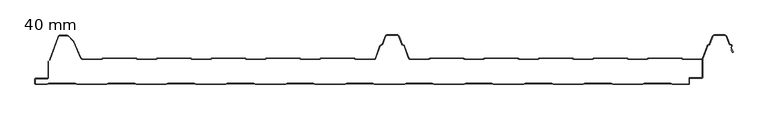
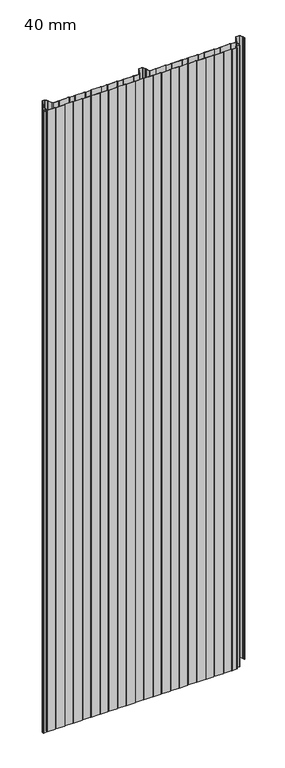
"""IFC4 building model written with IfcOpenShell, lengths in millimetres: plate geometry, HIANSA PANEL - H20.F01.004-PANELES DE CUBIERTA SIN TAPAJUNTA - EASY CUB 3GR - Panel de Muro Cortina : 40 mm."""

from ifc_helpers import new_model, si_unit, point, frame_2d, origin, origin_with_axes, place, context, project, spatial, polyline, circle_curve, trimmed, segment, composite_curve, outline, extrude, source, transform, mapped, element, save


def plate_40_mm_f33d5fd4(model_context):
    return source(origin(), model_context, "Body", "SweptSolid", [
        extrude(outline(polyline([(513.0200154, 36.9139578), (513.5200154, 38.0369762), (513.5200154, 16.25), (513.0200154, 15.535926), (513.0200154, 36.9139578)])), origin_with_axes(), (0.0, 0.0, 1.0), 3390.8509027),
        extrude(outline(polyline([(-486.0046627, 15.4267187), (-486.4799843, 16.25), (-486.4799843, 34.6399643), (-486.0046627, 35.4632456), (-486.0046627, 15.4267187)])), origin_with_axes(), (0.0, 0.0, 1.0), 3390.8509027),
        extrude(outline(composite_curve([segment(trimmed(circle_curve(frame_2d((-486.9813922, 9.7640482)), 0.998858), [point((-485.9825353, 9.7655207))], [point((-486.9813922, 8.7651902))], False, "CARTESIAN"), True, "CONTINUOUS"), segment(polyline([(-486.9813922, 8.7651902), (-505.4768583, 8.7651905)]), True, "CONTINUOUS"), segment(trimmed(circle_curve(frame_2d((-505.4798404, 8.2649415)), 0.5002578), [point((-505.4768583, 8.7651905))], [point((-505.9800982, 8.2649415))], True, "CARTESIAN"), True, "CONTINUOUS"), segment(polyline([(-505.9800982, 8.2649415), (-505.9800982, 1.0000206)]), True, "CONTINUOUS"), segment(trimmed(circle_curve(frame_2d((-505.4800365, 1.0000206)), 0.5000618), [point((-505.9800982, 1.0000206))], [point((-505.4800365, 0.4999588))], True, "CARTESIAN"), True, "CONTINUOUS"), segment(polyline([(-505.4800365, 0.4999588), (-488.3212473, 0.4999588), (-485.3211238, 1.5), (-445.1588462, 1.5), (-442.1588462, 0.5), (-397.3211238, 0.5), (-394.3211238, 1.5), (-354.1588462, 1.5), (-351.1588462, 0.5), (-306.3211238, 0.5), (-303.3211238, 1.5), (-263.1588462, 1.5), (-260.1588462, 0.5), (-215.3211238, 0.5), (-212.3211238, 1.5), (-172.1588462, 1.5), (-169.1588462, 0.5), (-124.3211238, 0.5), (-121.3211238, 1.5), (-81.1588462, 1.5), (-78.1588462, 0.5), (-33.3211238, 0.5), (-30.3211238, 1.5), (9.8411538, 1.5), (12.8411538, 0.5), (57.6788762, 0.5), (60.6788762, 1.5), (100.8411538, 1.5), (103.8411538, 0.5), (148.6788762, 0.5), (151.6788762, 1.5), (191.8411538, 1.5), (194.8411538, 0.5), (239.6788762, 0.5), (242.6788762, 1.5), (282.8411538, 1.5), (285.8411538, 0.5), (330.6788762, 0.5), (333.6788762, 1.5), (373.8411538, 1.5), (376.8411538, 0.5), (421.6788762, 0.5), (424.6788762, 1.5), (464.8411538, 1.5), (467.8411538, 0.5), (492.5200154, 0.5)]), True, "CONTINUOUS"), segment(trimmed(circle_curve(frame_2d((492.5200154, 1.0)), 0.5), [point((492.5200154, 0.5))], [point((493.0200154, 1.0))], True, "CARTESIAN"), True, "CONTINUOUS"), segment(polyline([(493.0200154, 1.0), (493.0200154, 9.1271447)]), True, "CONTINUOUS"), segment(trimmed(circle_curve(frame_2d((494.0200154, 9.1271447)), 1.0), [point((493.0200154, 9.1271447))], [point((494.0200154, 10.1271447))], False, "CARTESIAN"), True, "CONTINUOUS"), segment(polyline([(494.0200154, 10.1271447), (512.5169602, 10.1271447)]), True, "CONTINUOUS"), segment(trimmed(circle_curve(frame_2d((512.5200154, 10.6271354)), 0.5), [point((512.5169602, 10.1271447))], [point((513.0200154, 10.6271354))], True, "CARTESIAN"), True, "CONTINUOUS"), segment(polyline([(513.0200154, 10.6271354), (513.0200154, 15.535926), (513.5200154, 16.25), (513.5200154, 10.6271354)]), True, "CONTINUOUS"), segment(trimmed(circle_curve(frame_2d((512.5200154, 10.6271354)), 1.0), [point((513.5200154, 10.6271354))], [point((512.5200154, 9.6271354))], False, "CARTESIAN"), True, "CONTINUOUS"), segment(polyline([(512.5200154, 9.6271354), (494.0230705, 9.6271354)]), True, "CONTINUOUS"), segment(trimmed(circle_curve(frame_2d((494.0200154, 9.1271447)), 0.5), [point((494.0230705, 9.6271354))], [point((493.5200154, 9.1271447))], True, "CARTESIAN"), True, "CONTINUOUS"), segment(polyline([(493.5200154, 9.1271447), (493.5200154, 1.0)]), True, "CONTINUOUS"), segment(trimmed(circle_curve(frame_2d((492.5200154, 1.0)), 1.0), [point((493.5200154, 1.0))], [point((492.5200154, 0.0))], False, "CARTESIAN"), True, "CONTINUOUS"), segment(polyline([(492.5200154, 0.0), (467.760015, 0.0), (464.760015, 1.0), (424.760015, 1.0), (421.760015, 0.0), (376.760015, 0.0), (373.760015, 1.0), (333.760015, 1.0), (330.760015, 0.0), (285.760015, 0.0), (282.760015, 1.0), (242.760015, 1.0), (239.760015, 0.0), (194.760015, 0.0), (191.760015, 1.0), (151.760015, 1.0), (148.760015, 0.0), (103.760015, 0.0), (100.760015, 1.0), (60.760015, 1.0), (57.760015, 0.0), (12.760015, 0.0), (9.760015, 1.0), (-30.239985, 1.0), (-33.239985, 0.0), (-78.239985, 0.0), (-81.239985, 1.0), (-121.239985, 1.0), (-124.239985, 0.0), (-169.239985, 0.0), (-172.239985, 1.0), (-212.239985, 1.0), (-215.239985, 0.0), (-260.239985, 0.0), (-263.239985, 1.0), (-303.239985, 1.0), (-306.239985, 0.0), (-351.239985, 0.0), (-354.239985, 1.0), (-394.239985, 1.0), (-397.239985, 0.0), (-442.239985, 0.0), (-445.239985, 1.0), (-485.239985, 1.0), (-488.239985, 0.0), (-505.479985, 0.0)]), True, "CONTINUOUS"), segment(trimmed(circle_curve(frame_2d((-505.479985, 1.0)), 1.0), [point((-505.479985, 0.0))], [point((-506.479985, 1.0))], False, "CARTESIAN"), True, "CONTINUOUS"), segment(polyline([(-506.479985, 1.0), (-506.479985, 8.262651)]), True, "CONTINUOUS"), segment(trimmed(circle_curve(frame_2d((-505.479985, 8.262651)), 1.0), [point((-506.479985, 8.262651))], [point((-505.479985, 9.262651))], False, "CARTESIAN"), True, "CONTINUOUS"), segment(polyline([(-505.479985, 9.262651), (-486.9830395, 9.262651)]), True, "CONTINUOUS"), segment(trimmed(circle_curve(frame_2d((-486.9799843, 9.7626416)), 0.5), [point((-486.9830395, 9.262651))], [point((-486.4799843, 9.7626416))], True, "CARTESIAN"), True, "CONTINUOUS"), segment(polyline([(-486.4799843, 9.7626416), (-486.4799843, 16.25), (-485.9825353, 15.388393), (-485.9825353, 9.7655207)]), True, "CONTINUOUS")], self_intersect=False)), origin_with_axes(), (0.0, 0.0, 1.0), 3390.8509027),
        extrude(outline(composite_curve([segment(polyline([(-484.137089, 36.794297), (-470.9862026, 72.9260604)]), True, "CONTINUOUS"), segment(trimmed(circle_curve(frame_2d((-468.1671247, 71.9)), 3.0), [point((-470.9862026, 72.9260604))], [point((-468.1671247, 74.9))], False, "CARTESIAN"), True, "CONTINUOUS"), segment(polyline([(-468.1671247, 74.9), (-458.1823567, 74.9)]), True, "CONTINUOUS"), segment(trimmed(circle_curve(frame_2d((-458.1823567, 69.9)), 5.0), [point((-458.1823567, 74.9))], [point((-454.6468228, 73.4355339))], False, "CARTESIAN"), True, "CONTINUOUS"), segment(polyline([(-454.6468228, 73.4355339), (-447.9600419, 66.7487529)]), True, "CONTINUOUS"), segment(trimmed(circle_curve(frame_2d((-451.4955758, 63.213219)), 5.0), [point((-447.9600419, 66.7487529))], [point((-446.9079188, 65.2015359))], False, "CARTESIAN"), True, "CONTINUOUS"), segment(polyline([(-446.9079188, 65.2015359), (-436.1184882, 40.3070099)]), True, "CONTINUOUS"), segment(trimmed(circle_curve(frame_2d((-433.365894, 41.5)), 3.0), [point((-436.1184882, 40.3070099))], [point((-433.365894, 38.5))], True, "CARTESIAN"), True, "CONTINUOUS"), segment(polyline([(-433.365894, 38.5), (-405.5009812, 38.5)]), True, "CONTINUOUS"), segment(trimmed(circle_curve(frame_2d((-405.5009812, 40.5)), 2.0), [point((-405.5009812, 38.5))], [point((-404.2709893, 38.9229394))], True, "CARTESIAN"), True, "CONTINUOUS"), segment(polyline([(-404.2709893, 38.9229394), (-403.6196414, 39.5404749)]), True, "CONTINUOUS"), segment(trimmed(circle_curve(frame_2d((-402.3441269, 38.0)), 2.0), [point((-403.6196414, 39.5404749))], [point((-402.3441269, 40.0))], False, "CARTESIAN"), True, "CONTINUOUS"), segment(polyline([(-402.3441269, 40.0), (-352.3428935, 40.0)]), True, "CONTINUOUS"), segment(trimmed(circle_curve(frame_2d((-352.3428935, 38.0)), 2.0), [point((-352.3428935, 40.0))], [point((-351.067379, 39.5404749))], False, "CARTESIAN"), True, "CONTINUOUS"), segment(polyline([(-351.067379, 39.5404749), (-350.4160311, 38.9229394)]), True, "CONTINUOUS"), segment(trimmed(circle_curve(frame_2d((-349.1860393, 40.5)), 2.0), [point((-350.4160311, 38.9229394))], [point((-349.1860393, 38.5))], True, "CARTESIAN"), True, "CONTINUOUS"), segment(polyline([(-349.1860393, 38.5), (-322.1676478, 38.5)]), True, "CONTINUOUS"), segment(trimmed(circle_curve(frame_2d((-322.1676478, 40.5)), 2.0), [point((-322.1676478, 38.5))], [point((-320.937656, 38.9229394))], True, "CARTESIAN"), True, "CONTINUOUS"), segment(polyline([(-320.937656, 38.9229394), (-320.286308, 39.5404749)]), True, "CONTINUOUS"), segment(trimmed(circle_curve(frame_2d((-319.0107936, 38.0)), 2.0), [point((-320.286308, 39.5404749))], [point((-319.0107936, 40.0))], False, "CARTESIAN"), True, "CONTINUOUS"), segment(polyline([(-319.0107936, 40.0), (-269.0095602, 40.0)]), True, "CONTINUOUS"), segment(trimmed(circle_curve(frame_2d((-269.0095602, 38.0)), 2.0), [point((-269.0095602, 40.0))], [point((-267.7340457, 39.5404749))], False, "CARTESIAN"), True, "CONTINUOUS"), segment(polyline([(-267.7340457, 39.5404749), (-267.0826978, 38.9229394)]), True, "CONTINUOUS"), segment(trimmed(circle_curve(frame_2d((-265.8527059, 40.5)), 2.0), [point((-267.0826978, 38.9229394))], [point((-265.8527059, 38.5))], True, "CARTESIAN"), True, "CONTINUOUS"), segment(polyline([(-265.8527059, 38.5), (-238.8343145, 38.5)]), True, "CONTINUOUS"), segment(trimmed(circle_curve(frame_2d((-238.8343145, 40.5)), 2.0), [point((-238.8343145, 38.5))], [point((-237.6043226, 38.9229394))], True, "CARTESIAN"), True, "CONTINUOUS"), segment(polyline([(-237.6043226, 38.9229394), (-236.9529747, 39.5404749)]), True, "CONTINUOUS"), segment(trimmed(circle_curve(frame_2d((-235.6774602, 38.0)), 2.0), [point((-236.9529747, 39.5404749))], [point((-235.6774602, 40.0))], False, "CARTESIAN"), True, "CONTINUOUS"), segment(polyline([(-235.6774602, 40.0), (-185.6762268, 40.0)]), True, "CONTINUOUS"), segment(trimmed(circle_curve(frame_2d((-185.6762268, 38.0)), 2.0), [point((-185.6762268, 40.0))], [point((-184.4007124, 39.5404749))], False, "CARTESIAN"), True, "CONTINUOUS"), segment(polyline([(-184.4007124, 39.5404749), (-183.7493645, 38.9229394)]), True, "CONTINUOUS"), segment(trimmed(circle_curve(frame_2d((-182.5193726, 40.5)), 2.0), [point((-183.7493645, 38.9229394))], [point((-182.5193726, 38.5))], True, "CARTESIAN"), True, "CONTINUOUS"), segment(polyline([(-182.5193726, 38.5), (-155.5009812, 38.5)]), True, "CONTINUOUS"), segment(trimmed(circle_curve(frame_2d((-155.5009812, 40.5)), 2.0), [point((-155.5009812, 38.5))], [point((-154.2709893, 38.9229394))], True, "CARTESIAN"), True, "CONTINUOUS"), segment(polyline([(-154.2709893, 38.9229394), (-153.6196414, 39.5404749)]), True, "CONTINUOUS"), segment(trimmed(circle_curve(frame_2d((-152.3441269, 38.0)), 2.0), [point((-153.6196414, 39.5404749))], [point((-152.3441269, 40.0))], False, "CARTESIAN"), True, "CONTINUOUS"), segment(polyline([(-152.3441269, 40.0), (-102.3428935, 40.0)]), True, "CONTINUOUS"), segment(trimmed(circle_curve(frame_2d((-102.3428935, 38.0)), 2.0), [point((-102.3428935, 40.0))], [point((-101.067379, 39.5404749))], False, "CARTESIAN"), True, "CONTINUOUS"), segment(polyline([(-101.067379, 39.5404749), (-100.4160311, 38.9229394)]), True, "CONTINUOUS"), segment(trimmed(circle_curve(frame_2d((-99.1860393, 40.5)), 2.0), [point((-100.4160311, 38.9229394))], [point((-99.1860393, 38.5))], True, "CARTESIAN"), True, "CONTINUOUS"), segment(polyline([(-99.1860393, 38.5), (-72.1676478, 38.5)]), True, "CONTINUOUS"), segment(trimmed(circle_curve(frame_2d((-72.1676478, 40.5)), 2.0), [point((-72.1676478, 38.5))], [point((-70.937656, 38.9229394))], True, "CARTESIAN"), True, "CONTINUOUS"), segment(polyline([(-70.937656, 38.9229394), (-70.286308, 39.5404749)]), True, "CONTINUOUS"), segment(trimmed(circle_curve(frame_2d((-69.0107936, 38.0)), 2.0), [point((-70.286308, 39.5404749))], [point((-69.0107936, 40.0))], False, "CARTESIAN"), True, "CONTINUOUS"), segment(polyline([(-69.0107936, 40.0), (-19.0095602, 40.0)]), True, "CONTINUOUS"), segment(trimmed(circle_curve(frame_2d((-19.0095602, 38.0)), 2.0), [point((-19.0095602, 40.0))], [point((-17.7340457, 39.5404749))], False, "CARTESIAN"), True, "CONTINUOUS"), segment(polyline([(-17.7340457, 39.5404749), (-17.0826978, 38.9229394)]), True, "CONTINUOUS"), segment(trimmed(circle_curve(frame_2d((-15.8527059, 40.5)), 2.0), [point((-17.0826978, 38.9229394))], [point((-15.8527059, 38.5))], True, "CARTESIAN"), True, "CONTINUOUS"), segment(polyline([(-15.8527059, 38.5), (11.1656852, 38.5)]), True, "CONTINUOUS"), segment(trimmed(circle_curve(frame_2d((11.1656852, 41.5)), 3.0), [point((11.1656852, 38.5))], [point((13.984763, 40.4739395))], True, "CARTESIAN"), True, "CONTINUOUS"), segment(polyline([(13.984763, 40.4739395), (20.7029918, 58.9321192)]), True, "CONTINUOUS"), segment(trimmed(circle_curve(frame_2d((22.2064999, 58.3848869)), 1.6), [point((20.7029918, 58.9321192))], [point((21.6592677, 59.8883951))], False, "CARTESIAN"), True, "CONTINUOUS"), segment(polyline([(21.6592677, 59.8883951), (23.5053315, 60.5603074)]), True, "CONTINUOUS"), segment(trimmed(circle_curve(frame_2d((23.1633114, 61.5)), 1.0), [point((23.5053315, 60.5603074))], [point((24.103004, 61.1579799))], True, "CARTESIAN"), True, "CONTINUOUS"), segment(polyline([(24.103004, 61.1579799), (28.4609262, 73.1312725)]), True, "CONTINUOUS"), segment(trimmed(circle_curve(frame_2d((31.8438196, 71.9)), 3.6), [point((28.4609262, 73.1312725))], [point((31.8438196, 75.5))], False, "CARTESIAN"), True, "CONTINUOUS"), segment(polyline([(31.8438196, 75.5), (46.8024933, 75.5)]), True, "CONTINUOUS"), segment(trimmed(circle_curve(frame_2d((46.8024933, 71.9)), 3.6), [point((46.8024933, 75.5))], [point((50.1853868, 73.1312725))], False, "CARTESIAN"), True, "CONTINUOUS"), segment(polyline([(50.1853868, 73.1312725), (54.5433089, 61.1579799)]), True, "CONTINUOUS"), segment(trimmed(circle_curve(frame_2d((55.4830015, 61.5)), 1.0), [point((54.5433089, 61.1579799))], [point((55.1409814, 60.5603074))], True, "CARTESIAN"), True, "CONTINUOUS"), segment(polyline([(55.1409814, 60.5603074), (56.9870452, 59.8883951)]), True, "CONTINUOUS"), segment(trimmed(circle_curve(frame_2d((56.439813, 58.3848869)), 1.6), [point((56.9870452, 59.8883951))], [point((57.9433212, 58.9321192))], False, "CARTESIAN"), True, "CONTINUOUS"), segment(polyline([(57.9433212, 58.9321192), (64.6615499, 40.4739395)]), True, "CONTINUOUS"), segment(trimmed(circle_curve(frame_2d((67.4806278, 41.5)), 3.0), [point((64.6615499, 40.4739395))], [point((67.4806278, 38.5))], True, "CARTESIAN"), True, "CONTINUOUS"), segment(polyline([(67.4806278, 38.5), (94.4990188, 38.5)]), True, "CONTINUOUS"), segment(trimmed(circle_curve(frame_2d((94.4990188, 40.5)), 2.0), [point((94.4990188, 38.5))], [point((95.7290107, 38.9229394))], True, "CARTESIAN"), True, "CONTINUOUS"), segment(polyline([(95.7290107, 38.9229394), (96.3803586, 39.5404749)]), True, "CONTINUOUS"), segment(trimmed(circle_curve(frame_2d((97.6558731, 38.0)), 2.0), [point((96.3803586, 39.5404749))], [point((97.6558731, 40.0))], False, "CARTESIAN"), True, "CONTINUOUS"), segment(polyline([(97.6558731, 40.0), (147.6571065, 40.0)]), True, "CONTINUOUS"), segment(trimmed(circle_curve(frame_2d((147.6571065, 38.0)), 2.0), [point((147.6571065, 40.0))], [point((148.932621, 39.5404749))], False, "CARTESIAN"), True, "CONTINUOUS"), segment(polyline([(148.932621, 39.5404749), (149.5839689, 38.9229394)]), True, "CONTINUOUS"), segment(trimmed(circle_curve(frame_2d((150.8139607, 40.5)), 2.0), [point((149.5839689, 38.9229394))], [point((150.8139607, 38.5))], True, "CARTESIAN"), True, "CONTINUOUS"), segment(polyline([(150.8139607, 38.5), (177.8323522, 38.5)]), True, "CONTINUOUS"), segment(trimmed(circle_curve(frame_2d((177.8323522, 40.5)), 2.0), [point((177.8323522, 38.5))], [point((179.062344, 38.9229394))], True, "CARTESIAN"), True, "CONTINUOUS"), segment(polyline([(179.062344, 38.9229394), (179.713692, 39.5404749)]), True, "CONTINUOUS"), segment(trimmed(circle_curve(frame_2d((180.9892064, 38.0)), 2.0), [point((179.713692, 39.5404749))], [point((180.9892064, 40.0))], False, "CARTESIAN"), True, "CONTINUOUS"), segment(polyline([(180.9892064, 40.0), (230.9904398, 40.0)]), True, "CONTINUOUS"), segment(trimmed(circle_curve(frame_2d((230.9904398, 38.0)), 2.0), [point((230.9904398, 40.0))], [point((232.2659543, 39.5404749))], False, "CARTESIAN"), True, "CONTINUOUS"), segment(polyline([(232.2659543, 39.5404749), (232.9173022, 38.9229394)]), True, "CONTINUOUS"), segment(trimmed(circle_curve(frame_2d((234.1472941, 40.5)), 2.0), [point((232.9173022, 38.9229394))], [point((234.1472941, 38.5))], True, "CARTESIAN"), True, "CONTINUOUS"), segment(polyline([(234.1472941, 38.5), (261.1656855, 38.5)]), True, "CONTINUOUS"), segment(trimmed(circle_curve(frame_2d((261.1656855, 40.5)), 2.0), [point((261.1656855, 38.5))], [point((262.3956774, 38.9229394))], True, "CARTESIAN"), True, "CONTINUOUS"), segment(polyline([(262.3956774, 38.9229394), (263.0470253, 39.5404749)]), True, "CONTINUOUS"), segment(trimmed(circle_curve(frame_2d((264.3225398, 38.0)), 2.0), [point((263.0470253, 39.5404749))], [point((264.3225398, 40.0))], False, "CARTESIAN"), True, "CONTINUOUS"), segment(polyline([(264.3225398, 40.0), (314.3237732, 40.0)]), True, "CONTINUOUS"), segment(trimmed(circle_curve(frame_2d((314.3237732, 38.0)), 2.0), [point((314.3237732, 40.0))], [point((315.5992876, 39.5404749))], False, "CARTESIAN"), True, "CONTINUOUS"), segment(polyline([(315.5992876, 39.5404749), (316.2506355, 38.9229394)]), True, "CONTINUOUS"), segment(trimmed(circle_curve(frame_2d((317.4806274, 40.5)), 2.0), [point((316.2506355, 38.9229394))], [point((317.4806274, 38.5))], True, "CARTESIAN"), True, "CONTINUOUS"), segment(polyline([(317.4806274, 38.5), (344.4990188, 38.5)]), True, "CONTINUOUS"), segment(trimmed(circle_curve(frame_2d((344.4990188, 40.5)), 2.0), [point((344.4990188, 38.5))], [point((345.7290107, 38.9229394))], True, "CARTESIAN"), True, "CONTINUOUS"), segment(polyline([(345.7290107, 38.9229394), (346.3803586, 39.5404749)]), True, "CONTINUOUS"), segment(trimmed(circle_curve(frame_2d((347.6558731, 38.0)), 2.0), [point((346.3803586, 39.5404749))], [point((347.6558731, 40.0))], False, "CARTESIAN"), True, "CONTINUOUS"), segment(polyline([(347.6558731, 40.0), (397.6571065, 40.0)]), True, "CONTINUOUS"), segment(trimmed(circle_curve(frame_2d((397.6571065, 38.0)), 2.0), [point((397.6571065, 40.0))], [point((398.932621, 39.5404749))], False, "CARTESIAN"), True, "CONTINUOUS"), segment(polyline([(398.932621, 39.5404749), (399.5839689, 38.9229394)]), True, "CONTINUOUS"), segment(trimmed(circle_curve(frame_2d((400.8139607, 40.5)), 2.0), [point((399.5839689, 38.9229394))], [point((400.8139607, 38.5))], True, "CARTESIAN"), True, "CONTINUOUS"), segment(polyline([(400.8139607, 38.5), (427.8323522, 38.5)]), True, "CONTINUOUS"), segment(trimmed(circle_curve(frame_2d((427.8323522, 40.5)), 2.0), [point((427.8323522, 38.5))], [point((429.062344, 38.9229394))], True, "CARTESIAN"), True, "CONTINUOUS"), segment(polyline([(429.062344, 38.9229394), (429.713692, 39.5404749)]), True, "CONTINUOUS"), segment(trimmed(circle_curve(frame_2d((430.9892064, 38.0)), 2.0), [point((429.713692, 39.5404749))], [point((430.9892064, 40.0))], False, "CARTESIAN"), True, "CONTINUOUS"), segment(polyline([(430.9892064, 40.0), (480.9904398, 40.0)]), True, "CONTINUOUS"), segment(trimmed(circle_curve(frame_2d((480.9904398, 38.0)), 2.0), [point((480.9904398, 40.0))], [point((482.2659543, 39.5404749))], False, "CARTESIAN"), True, "CONTINUOUS"), segment(polyline([(482.2659543, 39.5404749), (482.9173022, 38.9229394)]), True, "CONTINUOUS"), segment(trimmed(circle_curve(frame_2d((484.1472941, 40.5)), 2.0), [point((482.9173022, 38.9229394))], [point((484.1472941, 38.5))], True, "CARTESIAN"), True, "CONTINUOUS"), segment(polyline([(484.1472941, 38.5), (511.1656852, 38.5)]), True, "CONTINUOUS"), segment(trimmed(circle_curve(frame_2d((511.1656852, 41.5)), 3.0), [point((511.1656852, 38.5))], [point((513.984763, 40.4739395))], True, "CARTESIAN"), True, "CONTINUOUS"), segment(polyline([(513.984763, 40.4739395), (520.7029918, 58.9321192)]), True, "CONTINUOUS"), segment(trimmed(circle_curve(frame_2d((522.2064999, 58.3848869)), 1.6), [point((520.7029918, 58.9321192))], [point((521.6592677, 59.8883951))], False, "CARTESIAN"), True, "CONTINUOUS"), segment(polyline([(521.6592677, 59.8883951), (523.5053315, 60.5603074)]), True, "CONTINUOUS"), segment(trimmed(circle_curve(frame_2d((523.1633114, 61.5)), 1.0), [point((523.5053315, 60.5603074))], [point((524.103004, 61.1579799))], True, "CARTESIAN"), True, "CONTINUOUS"), segment(polyline([(524.103004, 61.1579799), (528.4609262, 73.1312725)]), True, "CONTINUOUS"), segment(trimmed(circle_curve(frame_2d((531.8438196, 71.9)), 3.6), [point((528.4609262, 73.1312725))], [point((531.8438196, 75.5))], False, "CARTESIAN"), True, "CONTINUOUS"), segment(polyline([(531.8438196, 75.5), (546.9192854, 75.5)]), True, "CONTINUOUS"), segment(trimmed(circle_curve(frame_2d((546.9192854, 71.9)), 3.6), [point((546.9192854, 75.5))], [point((550.2444191, 73.2796687))], False, "CARTESIAN"), True, "CONTINUOUS"), segment(polyline([(550.2444191, 73.2796687), (555.167008, 61.4157576), (557.5975103, 60.2847949)]), True, "CONTINUOUS"), segment(trimmed(circle_curve(frame_2d((556.9224975, 58.8341544)), 1.6), [point((557.5975103, 60.2847949))], [point((558.4262226, 58.2875187))], False, "CARTESIAN"), True, "CONTINUOUS"), segment(polyline([(558.4262226, 58.2875187), (557.5103517, 55.7680746), (560.1304895, 49.4532914)]), True, "CONTINUOUS"), segment(trimmed(circle_curve(frame_2d((559.6686653, 49.2616707)), 0.5), [point((560.1304895, 49.4532914))], [point((559.2068412, 49.0700501))], False, "CARTESIAN"), True, "CONTINUOUS"), segment(polyline([(559.2068412, 49.0700501), (557.7298191, 52.6298149), (557.9300937, 53.4517949), (557.1976077, 55.2171566)]), True, "CONTINUOUS"), segment(trimmed(circle_curve(frame_2d((558.5830801, 55.7920185)), 1.5), [point((557.1976077, 55.2171566))], [point((557.1733377, 56.3044895))], False, "CARTESIAN"), True, "CONTINUOUS"), segment(polyline([(557.1733377, 56.3044895), (557.9563085, 58.4583424)]), True, "CONTINUOUS"), segment(trimmed(circle_curve(frame_2d((556.9224975, 58.8341544)), 1.1), [point((557.9563085, 58.4583424))], [point((557.3865688, 59.8314697))], True, "CARTESIAN"), True, "CONTINUOUS"), segment(polyline([(557.3865688, 59.8314697), (555.3087516, 60.7983208)]), True, "CONTINUOUS"), segment(trimmed(circle_curve(frame_2d((555.9415761, 62.1582962)), 1.5), [point((555.3087516, 60.7983208))], [point((554.5561037, 61.5834343))], False, "CARTESIAN"), True, "CONTINUOUS"), segment(polyline([(554.5561037, 61.5834343), (549.782595, 73.088048)]), True, "CONTINUOUS"), segment(trimmed(circle_curve(frame_2d((546.9192854, 71.9)), 3.1), [point((549.782595, 73.088048))], [point((546.9192854, 75.0))], True, "CARTESIAN"), True, "CONTINUOUS"), segment(polyline([(546.9192854, 75.0), (531.8438196, 75.0)]), True, "CONTINUOUS"), segment(trimmed(circle_curve(frame_2d((531.8438196, 71.9)), 3.1), [point((531.8438196, 75.0))], [point((528.9307725, 72.9602624))], True, "CARTESIAN"), True, "CONTINUOUS"), segment(polyline([(528.9307725, 72.9602624), (524.5728503, 60.9869698)]), True, "CONTINUOUS"), segment(trimmed(circle_curve(frame_2d((523.1633114, 61.5)), 1.5), [point((524.5728503, 60.9869698))], [point((523.6763416, 60.0904611))], False, "CARTESIAN"), True, "CONTINUOUS"), segment(polyline([(523.6763416, 60.0904611), (521.8302778, 59.4185488)]), True, "CONTINUOUS"), segment(trimmed(circle_curve(frame_2d((522.2064999, 58.3848869)), 1.1), [point((521.8302778, 59.4185488))], [point((521.1728381, 58.7611091))], True, "CARTESIAN"), True, "CONTINUOUS"), segment(polyline([(521.1728381, 58.7611091), (514.4546093, 40.3029294)]), True, "CONTINUOUS"), segment(trimmed(circle_curve(frame_2d((511.1656852, 41.5)), 3.5), [point((514.4546093, 40.3029294))], [point((511.1656852, 38.0))], False, "CARTESIAN"), True, "CONTINUOUS"), segment(polyline([(511.1656852, 38.0), (484.1472941, 38.0)]), True, "CONTINUOUS"), segment(trimmed(circle_curve(frame_2d((484.1472941, 40.5)), 2.5), [point((484.1472941, 38.0))], [point((482.5898135, 38.54443))], False, "CARTESIAN"), True, "CONTINUOUS"), segment(polyline([(482.5898135, 38.54443), (481.9350123, 39.1652394)]), True, "CONTINUOUS"), segment(trimmed(circle_curve(frame_2d((480.9904398, 38.0)), 1.5), [point((481.9350123, 39.1652394))], [point((480.9904398, 39.5))], True, "CARTESIAN"), True, "CONTINUOUS"), segment(polyline([(480.9904398, 39.5), (430.9892064, 39.5)]), True, "CONTINUOUS"), segment(trimmed(circle_curve(frame_2d((430.9892064, 38.0)), 1.5), [point((430.9892064, 39.5))], [point((430.044634, 39.1652394))], True, "CARTESIAN"), True, "CONTINUOUS"), segment(polyline([(430.044634, 39.1652394), (429.3898328, 38.54443)]), True, "CONTINUOUS"), segment(trimmed(circle_curve(frame_2d((427.8323522, 40.5)), 2.5), [point((429.3898328, 38.54443))], [point((427.8323522, 38.0))], False, "CARTESIAN"), True, "CONTINUOUS"), segment(polyline([(427.8323522, 38.0), (400.8139607, 38.0)]), True, "CONTINUOUS"), segment(trimmed(circle_curve(frame_2d((400.8139607, 40.5)), 2.5), [point((400.8139607, 38.0))], [point((399.2564801, 38.54443))], False, "CARTESIAN"), True, "CONTINUOUS"), segment(polyline([(399.2564801, 38.54443), (398.6016789, 39.1652394)]), True, "CONTINUOUS"), segment(trimmed(circle_curve(frame_2d((397.6571065, 38.0)), 1.5), [point((398.6016789, 39.1652394))], [point((397.6571065, 39.5))], True, "CARTESIAN"), True, "CONTINUOUS"), segment(polyline([(397.6571065, 39.5), (347.6558731, 39.5)]), True, "CONTINUOUS"), segment(trimmed(circle_curve(frame_2d((347.6558731, 38.0)), 1.5), [point((347.6558731, 39.5))], [point((346.7113007, 39.1652394))], True, "CARTESIAN"), True, "CONTINUOUS"), segment(polyline([(346.7113007, 39.1652394), (346.0564995, 38.54443)]), True, "CONTINUOUS"), segment(trimmed(circle_curve(frame_2d((344.4990188, 40.5)), 2.5), [point((346.0564995, 38.54443))], [point((344.4990188, 38.0))], False, "CARTESIAN"), True, "CONTINUOUS"), segment(polyline([(344.4990188, 38.0), (317.4806274, 38.0)]), True, "CONTINUOUS"), segment(trimmed(circle_curve(frame_2d((317.4806274, 40.5)), 2.5), [point((317.4806274, 38.0))], [point((315.9231468, 38.54443))], False, "CARTESIAN"), True, "CONTINUOUS"), segment(polyline([(315.9231468, 38.54443), (315.2683456, 39.1652394)]), True, "CONTINUOUS"), segment(trimmed(circle_curve(frame_2d((314.3237732, 38.0)), 1.5), [point((315.2683456, 39.1652394))], [point((314.3237732, 39.5))], True, "CARTESIAN"), True, "CONTINUOUS"), segment(polyline([(314.3237732, 39.5), (264.3225398, 39.5)]), True, "CONTINUOUS"), segment(trimmed(circle_curve(frame_2d((264.3225398, 38.0)), 1.5), [point((264.3225398, 39.5))], [point((263.3779673, 39.1652394))], True, "CARTESIAN"), True, "CONTINUOUS"), segment(polyline([(263.3779673, 39.1652394), (262.7231661, 38.54443)]), True, "CONTINUOUS"), segment(trimmed(circle_curve(frame_2d((261.1656855, 40.5)), 2.5), [point((262.7231661, 38.54443))], [point((261.1656855, 38.0))], False, "CARTESIAN"), True, "CONTINUOUS"), segment(polyline([(261.1656855, 38.0), (234.1472941, 38.0)]), True, "CONTINUOUS"), segment(trimmed(circle_curve(frame_2d((234.1472941, 40.5)), 2.5), [point((234.1472941, 38.0))], [point((232.5898135, 38.54443))], False, "CARTESIAN"), True, "CONTINUOUS"), segment(polyline([(232.5898135, 38.54443), (231.9350123, 39.1652394)]), True, "CONTINUOUS"), segment(trimmed(circle_curve(frame_2d((230.9904398, 38.0)), 1.5), [point((231.9350123, 39.1652394))], [point((230.9904398, 39.5))], True, "CARTESIAN"), True, "CONTINUOUS"), segment(polyline([(230.9904398, 39.5), (180.9892064, 39.5)]), True, "CONTINUOUS"), segment(trimmed(circle_curve(frame_2d((180.9892064, 38.0)), 1.5), [point((180.9892064, 39.5))], [point((180.044634, 39.1652394))], True, "CARTESIAN"), True, "CONTINUOUS"), segment(polyline([(180.044634, 39.1652394), (179.3898328, 38.54443)]), True, "CONTINUOUS"), segment(trimmed(circle_curve(frame_2d((177.8323522, 40.5)), 2.5), [point((179.3898328, 38.54443))], [point((177.8323522, 38.0))], False, "CARTESIAN"), True, "CONTINUOUS"), segment(polyline([(177.8323522, 38.0), (150.8139607, 38.0)]), True, "CONTINUOUS"), segment(trimmed(circle_curve(frame_2d((150.8139607, 40.5)), 2.5), [point((150.8139607, 38.0))], [point((149.2564801, 38.54443))], False, "CARTESIAN"), True, "CONTINUOUS"), segment(polyline([(149.2564801, 38.54443), (148.6016789, 39.1652394)]), True, "CONTINUOUS"), segment(trimmed(circle_curve(frame_2d((147.6571065, 38.0)), 1.5), [point((148.6016789, 39.1652394))], [point((147.6571065, 39.5))], True, "CARTESIAN"), True, "CONTINUOUS"), segment(polyline([(147.6571065, 39.5), (97.6558731, 39.5)]), True, "CONTINUOUS"), segment(trimmed(circle_curve(frame_2d((97.6558731, 38.0)), 1.5), [point((97.6558731, 39.5))], [point((96.7113007, 39.1652394))], True, "CARTESIAN"), True, "CONTINUOUS"), segment(polyline([(96.7113007, 39.1652394), (96.0564995, 38.54443)]), True, "CONTINUOUS"), segment(trimmed(circle_curve(frame_2d((94.4990188, 40.5)), 2.5), [point((96.0564995, 38.54443))], [point((94.4990188, 38.0))], False, "CARTESIAN"), True, "CONTINUOUS"), segment(polyline([(94.4990188, 38.0), (67.4806278, 38.0)]), True, "CONTINUOUS"), segment(trimmed(circle_curve(frame_2d((67.4806278, 41.5)), 3.5), [point((67.4806278, 38.0))], [point((64.1917036, 40.3029294))], False, "CARTESIAN"), True, "CONTINUOUS"), segment(polyline([(64.1917036, 40.3029294), (57.4734749, 58.7611091)]), True, "CONTINUOUS"), segment(trimmed(circle_curve(frame_2d((56.439813, 58.3848869)), 1.1), [point((57.4734749, 58.7611091))], [point((56.8160352, 59.4185488))], True, "CARTESIAN"), True, "CONTINUOUS"), segment(polyline([(56.8160352, 59.4185488), (54.9699713, 60.0904611)]), True, "CONTINUOUS"), segment(trimmed(circle_curve(frame_2d((55.4830015, 61.5)), 1.5), [point((54.9699713, 60.0904611))], [point((54.0734626, 60.9869698))], False, "CARTESIAN"), True, "CONTINUOUS"), segment(polyline([(54.0734626, 60.9869698), (49.7155405, 72.9602624)]), True, "CONTINUOUS"), segment(trimmed(circle_curve(frame_2d((46.8024933, 71.9)), 3.1), [point((49.7155405, 72.9602624))], [point((46.8024933, 75.0))], True, "CARTESIAN"), True, "CONTINUOUS"), segment(polyline([(46.8024933, 75.0), (31.8438196, 75.0)]), True, "CONTINUOUS"), segment(trimmed(circle_curve(frame_2d((31.8438196, 71.9)), 3.1), [point((31.8438196, 75.0))], [point((28.9307725, 72.9602624))], True, "CARTESIAN"), True, "CONTINUOUS"), segment(polyline([(28.9307725, 72.9602624), (24.5728503, 60.9869698)]), True, "CONTINUOUS"), segment(trimmed(circle_curve(frame_2d((23.1633114, 61.5)), 1.5), [point((24.5728503, 60.9869698))], [point((23.6763416, 60.0904611))], False, "CARTESIAN"), True, "CONTINUOUS"), segment(polyline([(23.6763416, 60.0904611), (21.8302778, 59.4185488)]), True, "CONTINUOUS"), segment(trimmed(circle_curve(frame_2d((22.2064999, 58.3848869)), 1.1), [point((21.8302778, 59.4185488))], [point((21.1728381, 58.7611091))], True, "CARTESIAN"), True, "CONTINUOUS"), segment(polyline([(21.1728381, 58.7611091), (14.4546093, 40.3029294)]), True, "CONTINUOUS"), segment(trimmed(circle_curve(frame_2d((11.1656852, 41.5)), 3.5), [point((14.4546093, 40.3029294))], [point((11.1656852, 38.0))], False, "CARTESIAN"), True, "CONTINUOUS"), segment(polyline([(11.1656852, 38.0), (-15.8527059, 38.0)]), True, "CONTINUOUS"), segment(trimmed(circle_curve(frame_2d((-15.8527059, 40.5)), 2.5), [point((-15.8527059, 38.0))], [point((-17.4101865, 38.54443))], False, "CARTESIAN"), True, "CONTINUOUS"), segment(polyline([(-17.4101865, 38.54443), (-18.0649877, 39.1652394)]), True, "CONTINUOUS"), segment(trimmed(circle_curve(frame_2d((-19.0095602, 38.0)), 1.5), [point((-18.0649877, 39.1652394))], [point((-19.0095602, 39.5))], True, "CARTESIAN"), True, "CONTINUOUS"), segment(polyline([(-19.0095602, 39.5), (-69.0107936, 39.5)]), True, "CONTINUOUS"), segment(trimmed(circle_curve(frame_2d((-69.0107936, 38.0)), 1.5), [point((-69.0107936, 39.5))], [point((-69.955366, 39.1652394))], True, "CARTESIAN"), True, "CONTINUOUS"), segment(polyline([(-69.955366, 39.1652394), (-70.6101672, 38.54443)]), True, "CONTINUOUS"), segment(trimmed(circle_curve(frame_2d((-72.1676478, 40.5)), 2.5), [point((-70.6101672, 38.54443))], [point((-72.1676478, 38.0))], False, "CARTESIAN"), True, "CONTINUOUS"), segment(polyline([(-72.1676478, 38.0), (-99.1860393, 38.0)]), True, "CONTINUOUS"), segment(trimmed(circle_curve(frame_2d((-99.1860393, 40.5)), 2.5), [point((-99.1860393, 38.0))], [point((-100.7435199, 38.54443))], False, "CARTESIAN"), True, "CONTINUOUS"), segment(polyline([(-100.7435199, 38.54443), (-101.3983211, 39.1652394)]), True, "CONTINUOUS"), segment(trimmed(circle_curve(frame_2d((-102.3428935, 38.0)), 1.5), [point((-101.3983211, 39.1652394))], [point((-102.3428935, 39.5))], True, "CARTESIAN"), True, "CONTINUOUS"), segment(polyline([(-102.3428935, 39.5), (-152.3441269, 39.5)]), True, "CONTINUOUS"), segment(trimmed(circle_curve(frame_2d((-152.3441269, 38.0)), 1.5), [point((-152.3441269, 39.5))], [point((-153.2886993, 39.1652394))], True, "CARTESIAN"), True, "CONTINUOUS"), segment(polyline([(-153.2886993, 39.1652394), (-153.9435005, 38.54443)]), True, "CONTINUOUS"), segment(trimmed(circle_curve(frame_2d((-155.5009812, 40.5)), 2.5), [point((-153.9435005, 38.54443))], [point((-155.5009812, 38.0))], False, "CARTESIAN"), True, "CONTINUOUS"), segment(polyline([(-155.5009812, 38.0), (-182.5193726, 38.0)]), True, "CONTINUOUS"), segment(trimmed(circle_curve(frame_2d((-182.5193726, 40.5)), 2.5), [point((-182.5193726, 38.0))], [point((-184.0768532, 38.54443))], False, "CARTESIAN"), True, "CONTINUOUS"), segment(polyline([(-184.0768532, 38.54443), (-184.7316544, 39.1652394)]), True, "CONTINUOUS"), segment(trimmed(circle_curve(frame_2d((-185.6762268, 38.0)), 1.5), [point((-184.7316544, 39.1652394))], [point((-185.6762268, 39.5))], True, "CARTESIAN"), True, "CONTINUOUS"), segment(polyline([(-185.6762268, 39.5), (-235.6774602, 39.5)]), True, "CONTINUOUS"), segment(trimmed(circle_curve(frame_2d((-235.6774602, 38.0)), 1.5), [point((-235.6774602, 39.5))], [point((-236.6220327, 39.1652394))], True, "CARTESIAN"), True, "CONTINUOUS"), segment(polyline([(-236.6220327, 39.1652394), (-237.2768339, 38.54443)]), True, "CONTINUOUS"), segment(trimmed(circle_curve(frame_2d((-238.8343145, 40.5)), 2.5), [point((-237.2768339, 38.54443))], [point((-238.8343145, 38.0))], False, "CARTESIAN"), True, "CONTINUOUS"), segment(polyline([(-238.8343145, 38.0), (-265.8527059, 38.0)]), True, "CONTINUOUS"), segment(trimmed(circle_curve(frame_2d((-265.8527059, 40.5)), 2.5), [point((-265.8527059, 38.0))], [point((-267.4101865, 38.54443))], False, "CARTESIAN"), True, "CONTINUOUS"), segment(polyline([(-267.4101865, 38.54443), (-268.0649877, 39.1652394)]), True, "CONTINUOUS"), segment(trimmed(circle_curve(frame_2d((-269.0095602, 38.0)), 1.5), [point((-268.0649877, 39.1652394))], [point((-269.0095602, 39.5))], True, "CARTESIAN"), True, "CONTINUOUS"), segment(polyline([(-269.0095602, 39.5), (-319.0107936, 39.5)]), True, "CONTINUOUS"), segment(trimmed(circle_curve(frame_2d((-319.0107936, 38.0)), 1.5), [point((-319.0107936, 39.5))], [point((-319.955366, 39.1652394))], True, "CARTESIAN"), True, "CONTINUOUS"), segment(polyline([(-319.955366, 39.1652394), (-320.6101672, 38.54443)]), True, "CONTINUOUS"), segment(trimmed(circle_curve(frame_2d((-322.1676478, 40.5)), 2.5), [point((-320.6101672, 38.54443))], [point((-322.1676478, 38.0))], False, "CARTESIAN"), True, "CONTINUOUS"), segment(polyline([(-322.1676478, 38.0), (-349.1860393, 38.0)]), True, "CONTINUOUS"), segment(trimmed(circle_curve(frame_2d((-349.1860393, 40.5)), 2.5), [point((-349.1860393, 38.0))], [point((-350.7435199, 38.54443))], False, "CARTESIAN"), True, "CONTINUOUS"), segment(polyline([(-350.7435199, 38.54443), (-351.3983211, 39.1652394)]), True, "CONTINUOUS"), segment(trimmed(circle_curve(frame_2d((-352.3428935, 38.0)), 1.5), [point((-351.3983211, 39.1652394))], [point((-352.3428935, 39.5))], True, "CARTESIAN"), True, "CONTINUOUS"), segment(polyline([(-352.3428935, 39.5), (-402.3441269, 39.5)]), True, "CONTINUOUS"), segment(trimmed(circle_curve(frame_2d((-402.3441269, 38.0)), 1.5), [point((-402.3441269, 39.5))], [point((-403.2886993, 39.1652394))], True, "CARTESIAN"), True, "CONTINUOUS"), segment(polyline([(-403.2886993, 39.1652394), (-403.9435005, 38.54443)]), True, "CONTINUOUS"), segment(trimmed(circle_curve(frame_2d((-405.5009812, 40.5)), 2.5), [point((-403.9435005, 38.54443))], [point((-405.5009812, 38.0))], False, "CARTESIAN"), True, "CONTINUOUS"), segment(polyline([(-405.5009812, 38.0), (-433.365894, 38.0)]), True, "CONTINUOUS"), segment(trimmed(circle_curve(frame_2d((-433.365894, 41.5)), 3.5), [point((-433.365894, 38.0))], [point((-436.5772539, 40.1081782))], False, "CARTESIAN"), True, "CONTINUOUS"), segment(polyline([(-436.5772539, 40.1081782), (-447.3666845, 65.0027042)]), True, "CONTINUOUS"), segment(trimmed(circle_curve(frame_2d((-451.4955758, 63.213219)), 4.5), [point((-447.3666845, 65.0027042))], [point((-448.3135953, 66.3951995))], True, "CARTESIAN"), True, "CONTINUOUS"), segment(polyline([(-448.3135953, 66.3951995), (-455.0003762, 73.0819805)]), True, "CONTINUOUS"), segment(trimmed(circle_curve(frame_2d((-458.1823567, 69.9)), 4.5), [point((-455.0003762, 73.0819805))], [point((-458.1823567, 74.4))], True, "CARTESIAN"), True, "CONTINUOUS"), segment(polyline([(-458.1823567, 74.4), (-468.1671247, 74.4)]), True, "CONTINUOUS"), segment(trimmed(circle_curve(frame_2d((-468.1671247, 71.9)), 2.5), [point((-468.1671247, 74.4))], [point((-470.5163563, 72.7550504))], True, "CARTESIAN"), True, "CONTINUOUS"), segment(polyline([(-470.5163563, 72.7550504), (-483.4445026, 37.2352601), (-484.137089, 36.794297)]), True, "CONTINUOUS")], self_intersect=False)), origin_with_axes(), (0.0, 0.0, 1.0), 3390.8509027),
    ])


if __name__ == "__main__":
    model = new_model("IFC4")
    model_context = context("Model", 3, world=origin())
    ifc_project = project(units=[si_unit("LENGTHUNIT", "METRE", prefix="MILLI")], contexts=[model_context])
    site = spatial("IfcSite", under=ifc_project)
    building = spatial("IfcBuilding", under=site)
    placement = place(None, origin())
    plate_40_mm_shape = plate_40_mm_f33d5fd4(model_context)
    element("IfcPlate", 1, ObjectType="HIANSA PANEL - H20.F01.004-PANELES DE CUBIERTA SIN TAPAJUNTA - EASY CUB 3GR - Panel de Muro Cortina : 40 mm", at=placement, inside=building, context=model_context, shape_type="MappedRepresentation", body=[
        mapped(plate_40_mm_shape, transform((0.0, 0.0, 0.0), x_axis=(1.0, 0.0, 0.0), y_axis=(0.0, 1.0, 0.0), z_axis=(0.0, 0.0, 1.0))),
    ])
    save(model, "model.ifc")
